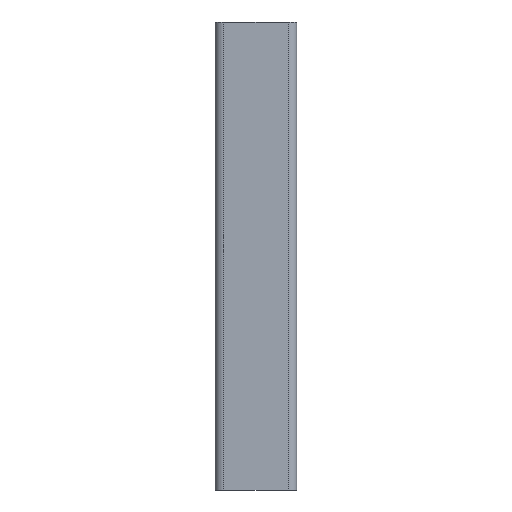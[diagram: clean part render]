
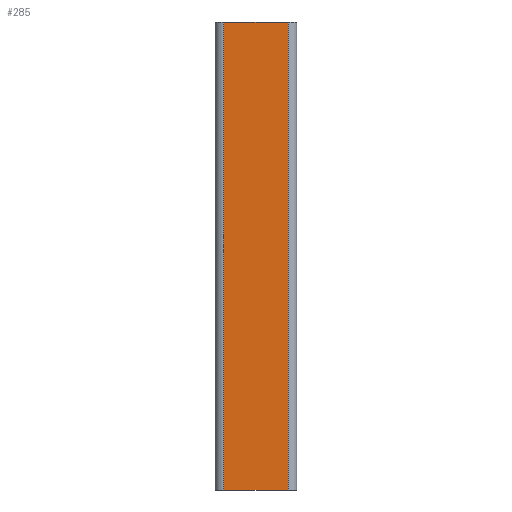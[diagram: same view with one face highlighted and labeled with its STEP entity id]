
A CAD part, left-side view. The second image highlights one B-rep face of the part: STEP entity #285.
In plain terms, the highlighted planar face has unit normal (-1, 0, 0).
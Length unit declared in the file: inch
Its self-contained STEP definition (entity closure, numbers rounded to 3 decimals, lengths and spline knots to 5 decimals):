
#35 = CARTESIAN_POINT ( 'NONE',  ( -1.0475, -0.82875, 6. ) ) ;
#43 = CARTESIAN_POINT ( 'NONE',  ( -1.0475, -0.82875, -6. ) ) ;
#51 = CARTESIAN_POINT ( 'NONE',  ( -1.0475, 0.82875, -6. ) ) ;
#73 = CARTESIAN_POINT ( 'NONE',  ( -1.0475, -0.82875, 6. ) ) ;
#78 = FACE_OUTER_BOUND ( 'NONE', #319, .T. ) ;
#79 = PLANE ( 'NONE',  #404 ) ;
#81 = DIRECTION ( 'NONE',  ( 1., 0., 0. ) ) ;
#82 = DIRECTION ( 'NONE',  ( 0., 0., -1. ) ) ;
#128 = DIRECTION ( 'NONE',  ( 0., 0., -1. ) ) ;
#183 = LINE ( 'NONE', #185, #270 ) ;
#184 = CARTESIAN_POINT ( 'NONE',  ( -1.0475, 0.82875, 6. ) ) ;
#185 = CARTESIAN_POINT ( 'NONE',  ( -1.0475, 0.82875, 6. ) ) ;
#186 = DIRECTION ( 'NONE',  ( 0., 0., -1. ) ) ;
#237 = LINE ( 'NONE', #238, #323 ) ;
#238 = CARTESIAN_POINT ( 'NONE',  ( -1.0475, -0.82875, 6. ) ) ;
#242 = LINE ( 'NONE', #243, #303 ) ;
#243 = CARTESIAN_POINT ( 'NONE',  ( -1.0475, -0.82875, 6. ) ) ;
#247 = DIRECTION ( 'NONE',  ( 0., -1., 0. ) ) ;
#270 = VECTOR ( 'NONE', #186, 39.37008 ) ;
#285 = ADVANCED_FACE ( 'NONE', ( #78 ), #79, .F. ) ;
#303 = VECTOR ( 'NONE', #128, 39.37008 ) ;
#319 = EDGE_LOOP ( 'NONE', ( #500, #544, #545, #546 ) ) ;
#323 = VECTOR ( 'NONE', #247, 39.37008 ) ;
#365 = EDGE_CURVE ( 'NONE', #522, #469, #571, .T. ) ;
#376 = EDGE_CURVE ( 'NONE', #450, #501, #237, .T. ) ;
#390 = VECTOR ( 'NONE', #531, 39.37008 ) ;
#404 = AXIS2_PLACEMENT_3D ( 'NONE', #73, #81, #82 ) ;
#405 = EDGE_CURVE ( 'NONE', #501, #469, #242, .T. ) ;
#434 = EDGE_CURVE ( 'NONE', #450, #522, #183, .T. ) ;
#450 = VERTEX_POINT ( 'NONE', #184 ) ;
#469 = VERTEX_POINT ( 'NONE', #43 ) ;
#500 = ORIENTED_EDGE ( 'NONE', *, *, #365, .T. ) ;
#501 = VERTEX_POINT ( 'NONE', #35 ) ;
#522 = VERTEX_POINT ( 'NONE', #51 ) ;
#529 = CARTESIAN_POINT ( 'NONE',  ( -1.0475, -0.82875, -6. ) ) ;
#531 = DIRECTION ( 'NONE',  ( 0., -1., 0. ) ) ;
#544 = ORIENTED_EDGE ( 'NONE', *, *, #405, .F. ) ;
#545 = ORIENTED_EDGE ( 'NONE', *, *, #376, .F. ) ;
#546 = ORIENTED_EDGE ( 'NONE', *, *, #434, .T. ) ;
#571 = LINE ( 'NONE', #529, #390 ) ;
